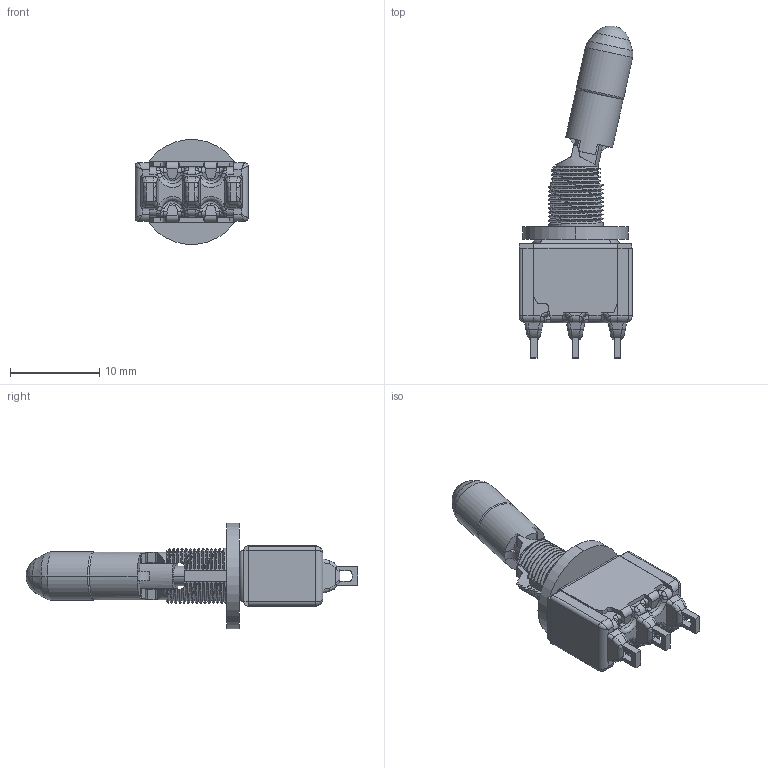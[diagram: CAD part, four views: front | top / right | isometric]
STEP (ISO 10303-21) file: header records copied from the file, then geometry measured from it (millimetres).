
FILE_DESCRIPTION((''),'2;1');
FILE_NAME('710XK2CWZ_SW0001_PRT','2011-10-21T',('jtrepler'),(''),'PRO/ENGINEER BY PARAMETRIC TECHNOLOGY CORPORATION, 2011080','PRO/ENGINEER BY PARAMETRIC TECHNOLOGY CORPORATION, 2011080','');
FILE_SCHEMA(('AUTOMOTIVE_DESIGN_CC2 { 1 2 10303 214 -1 1 5 2 }'));
Length unit declared in the file: inch
Products named in the file (1): 710XK2CWZ_SW0001_PRT
Bounding box: 12.8 x 37.28 x 11.81 mm (x, y, z)
Volume: 931.7 mm3; surface area: 2630.9 mm2
Topology: 3 solids, 3 shells, 721 faces, 1904 edges, 1182 vertices
Faces by surface type: plane 325, cylinder 206, bspline 143, torus 24, cone 21, sphere 2
Entity records: 35469 total; most frequent: CARTESIAN_POINT 18806, ORIENTED_EDGE 3796, DIRECTION 2956, EDGE_CURVE 1898, VERTEX_POINT 1182, VECTOR 1048, LINE 1048, AXIS2_PLACEMENT_3D 954
